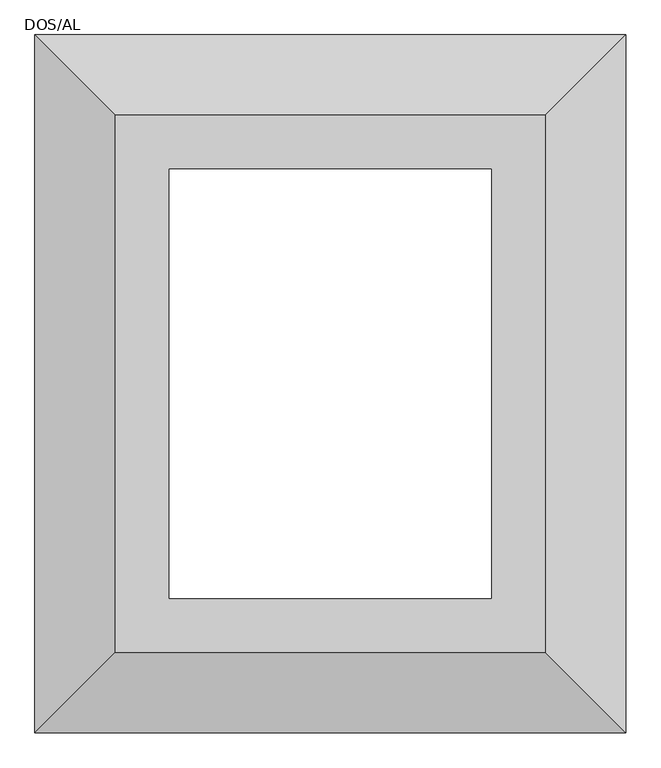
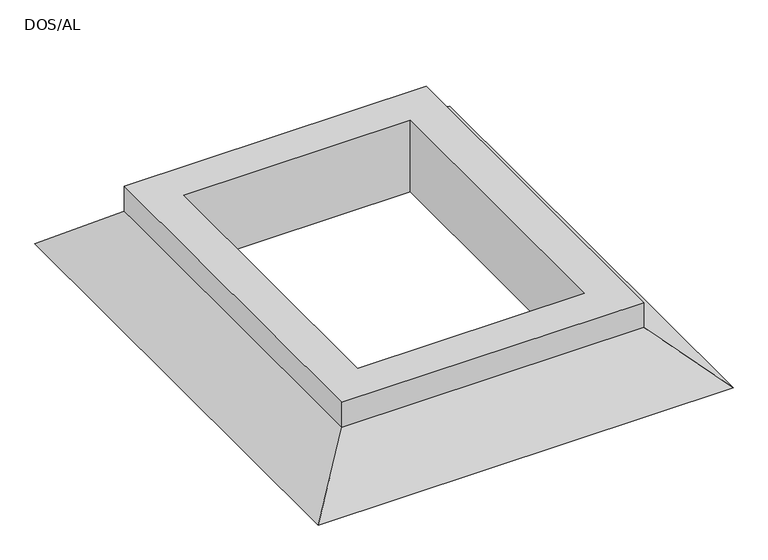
"""IFC4 building model written with IfcOpenShell, lengths in millimetres: duct fitting geometry, DUF_FB_Roof mounting DOS-AL_SH_SMA : DOS/AL."""

from ifc_helpers import new_model, si_unit, origin, place, context, project, spatial, faceted_brep, source, transform, mapped, element, save


def dos_al_ee18bb0b(model_context):
    return source(origin(), model_context, "Body", "Brep", [
        faceted_brep([(300.0, 400.0, 200.0), (300.0, 400.0, 0.0), (300.0, -400.0, 0.0), (300.0, -400.0, 200.0), (400.0, 500.0, 130.0), (400.0, 500.0, 200.0), (400.0, -500.0, 200.0), (400.0, -500.0, 130.0), (550.0, 650.0, 0.0), (550.0, -650.0, 0.0), (-300.0, -400.0, 0.0), (-300.0, -400.0, 200.0), (-400.0, -500.0, 200.0), (-400.0, -500.0, 130.0), (-550.0, -650.0, 0.0), (-300.0, 400.0, 0.0), (-300.0, 400.0, 200.0), (-400.0, 500.0, 200.0), (-400.0, 500.0, 130.0), (-550.0, 650.0, 0.0)], [[[0, 1, 2, 3]], [[4, 5, 6, 7]], [[8, 4, 7, 9]], [[3, 2, 10, 11]], [[7, 6, 12, 13]], [[9, 7, 13, 14]], [[11, 10, 15, 16]], [[13, 12, 17, 18]], [[14, 13, 18, 19]], [[9, 14, 19, 8], [1, 15, 10, 2]], [[16, 15, 1, 0]], [[5, 17, 12, 6], [3, 11, 16, 0]], [[18, 17, 5, 4]], [[19, 18, 4, 8]]]),
    ])


if __name__ == "__main__":
    model = new_model("IFC4")
    model_context = context("Model", 3, world=origin())
    ifc_project = project(units=[si_unit("LENGTHUNIT", "METRE", prefix="MILLI")], contexts=[model_context])
    site = spatial("IfcSite", under=ifc_project)
    building = spatial("IfcBuilding", under=site)
    placement = place(None, origin())
    dos_al_shape = dos_al_ee18bb0b(model_context)
    element("IfcDuctFitting", 1, ObjectType="DUF_FB_Roof mounting DOS-AL_SH_SMA : DOS/AL", at=placement, inside=building, context=model_context, shape_type="MappedRepresentation", body=[
        mapped(dos_al_shape, transform((0.0, 0.0, 0.0), x_axis=(1.0, 0.0, 0.0), y_axis=(0.0, 1.0, 0.0), z_axis=(0.0, 0.0, 1.0))),
    ])
    save(model, "model.ifc")
